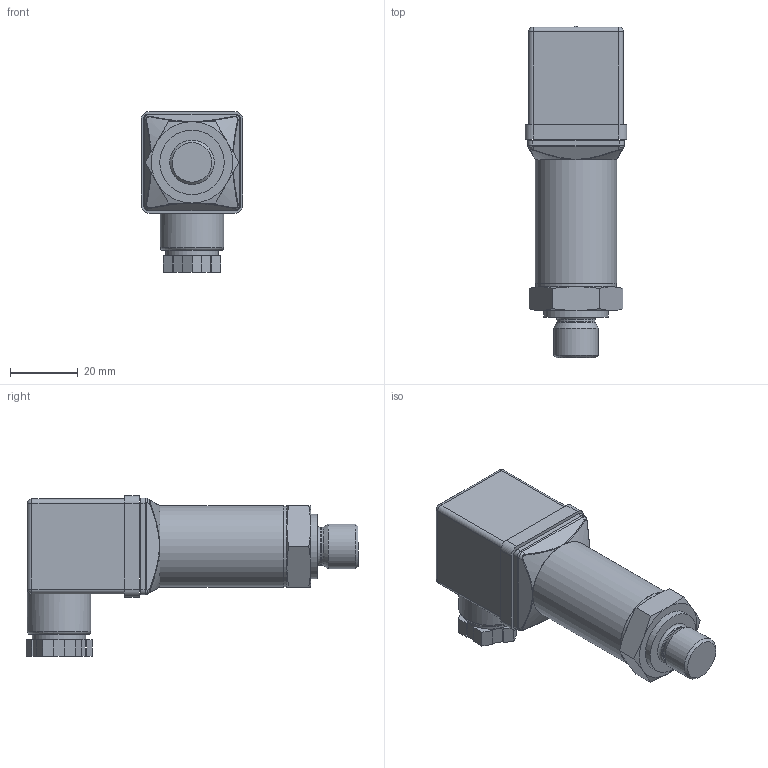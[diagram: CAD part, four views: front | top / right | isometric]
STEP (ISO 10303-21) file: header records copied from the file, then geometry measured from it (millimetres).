
FILE_DESCRIPTION(/* description */ (''),/* implementation_level */ '2;1');
FILE_NAME(/* name */ 'C:\daten\BDS inventor\26\26.600 G-xxxx-R-x-x-100-300-x-xxx.stp',/* time_stamp */ '2020-10-16T13:14:18+02:00',/* author */ ('CZ1067'),/* organization */ (''),/* preprocessor_version */ 'ST-DEVELOPER v16.5',/* originating_system */ 'Autodesk Inventor 2017',/* authorisation */ '');
FILE_SCHEMA (('AUTOMOTIVE_DESIGN { 1 0 10303 214 3 1 1 }'));
Length unit declared in the file: millimetre
Products named in the file (1): 26.600 G-xxxx-R-x-x-100-300-x-xxx
Bounding box: 30 x 97.96 x 47.5 mm (x, y, z)
Surface area: 14627.6 mm2 (no closed solid volume)
Topology: 0 solids, 9 shells, 117 faces, 342 edges, 211 vertices
Faces by surface type: plane 57, cylinder 32, cone 13, bspline 8, sphere 4, torus 3
Full cylindrical faces by diameter (mm): 11.2 x1, 13.157 x1, 15.7 x1, 18.8 x1, 19 x1, 23.8 x1, 24 x1
Entity records: 4151 total; most frequent: CARTESIAN_POINT 1112, DIRECTION 602, ORIENTED_EDGE 534, EDGE_CURVE 324, AXIS2_PLACEMENT_3D 220, VERTEX_POINT 210, LINE 162, VECTOR 162
